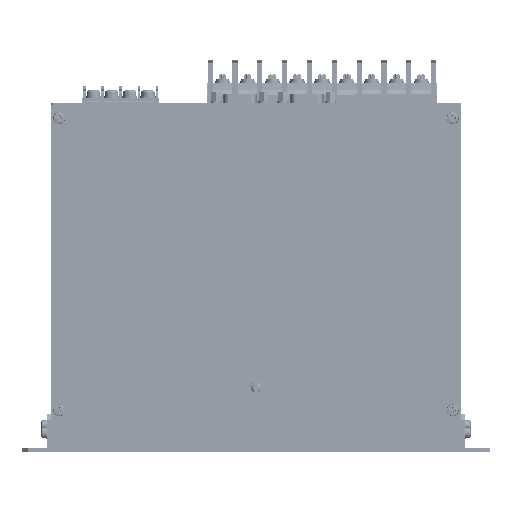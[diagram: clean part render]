
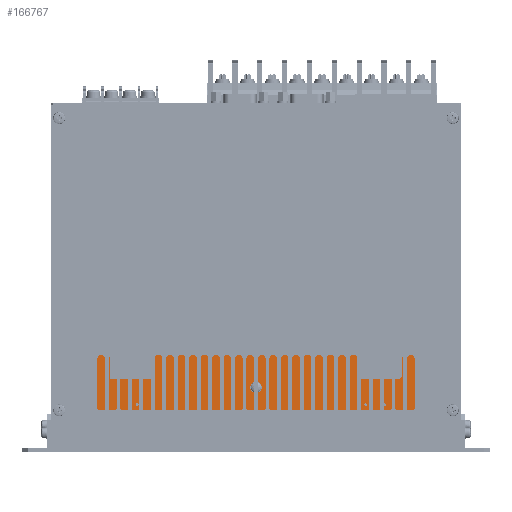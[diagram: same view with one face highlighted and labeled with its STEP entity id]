
A CAD part, left-side view. The second image highlights one B-rep face of the part: STEP entity #166767.
In plain terms, the highlighted planar face has unit normal (-1, 0, 0).
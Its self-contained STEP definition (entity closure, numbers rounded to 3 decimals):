
#166427=CARTESIAN_POINT('',(17.751,104.215,59.415));
#166428=VERTEX_POINT('',#166427);
#166435=CARTESIAN_POINT('',(17.751,-85.785,59.415));
#166436=VERTEX_POINT('',#166435);
#166437=CARTESIAN_POINT('',(17.751,-85.785,59.415));
#166438=DIRECTION('',(0.,1.,0.));
#166439=VECTOR('',#166438,190.);
#166440=LINE('',#166437,#166439);
#166441=EDGE_CURVE('',#166436,#166428,#166440,.T.);
#166465=CARTESIAN_POINT('',(17.751,104.215,4.415));
#166466=VERTEX_POINT('',#166465);
#166473=CARTESIAN_POINT('',(17.751,104.215,59.415));
#166474=DIRECTION('',(0.,0.,-1.));
#166475=VECTOR('',#166474,55.);
#166476=LINE('',#166473,#166475);
#166477=EDGE_CURVE('',#166428,#166466,#166476,.T.);
#166496=CARTESIAN_POINT('',(17.751,-85.785,4.415));
#166497=VERTEX_POINT('',#166496);
#166504=CARTESIAN_POINT('',(17.751,104.215,4.415));
#166505=DIRECTION('',(0.,-1.,0.));
#166506=VECTOR('',#166505,190.);
#166507=LINE('',#166504,#166506);
#166508=EDGE_CURVE('',#166466,#166497,#166507,.T.);
#166521=CARTESIAN_POINT('',(17.751,-80.285,47.665));
#166522=VERTEX_POINT('',#166521);
#166546=CARTESIAN_POINT('',(17.751,-80.285,51.165));
#166547=VERTEX_POINT('',#166546);
#166548=CARTESIAN_POINT('',(17.751,-80.285,49.415));
#166549=DIRECTION('',(-1.,0.,0.));
#166550=DIRECTION('',(0.,0.,1.));
#166551=AXIS2_PLACEMENT_3D('',#166548,#166549,#166550);
#166552=CIRCLE('',#166551,1.75);
#166553=EDGE_CURVE('',#166522,#166547,#166552,.T.);
#166555=CARTESIAN_POINT('',(17.751,-80.285,49.415));
#166556=DIRECTION('',(-1.,0.,0.));
#166557=DIRECTION('',(0.,0.,1.));
#166558=AXIS2_PLACEMENT_3D('',#166555,#166556,#166557);
#166559=CIRCLE('',#166558,1.75);
#166560=EDGE_CURVE('',#166547,#166522,#166559,.T.);
#166572=CARTESIAN_POINT('',(17.751,-80.285,7.665));
#166573=VERTEX_POINT('',#166572);
#166597=CARTESIAN_POINT('',(17.751,-80.285,11.165));
#166598=VERTEX_POINT('',#166597);
#166599=CARTESIAN_POINT('',(17.751,-80.285,9.415));
#166600=DIRECTION('',(-1.,0.,0.));
#166601=DIRECTION('',(0.,0.,1.));
#166602=AXIS2_PLACEMENT_3D('',#166599,#166600,#166601);
#166603=CIRCLE('',#166602,1.75);
#166604=EDGE_CURVE('',#166573,#166598,#166603,.T.);
#166606=CARTESIAN_POINT('',(17.751,-80.285,9.415));
#166607=DIRECTION('',(-1.,0.,0.));
#166608=DIRECTION('',(0.,0.,1.));
#166609=AXIS2_PLACEMENT_3D('',#166606,#166607,#166608);
#166610=CIRCLE('',#166609,1.75);
#166611=EDGE_CURVE('',#166598,#166573,#166610,.T.);
#166623=CARTESIAN_POINT('',(17.751,98.715,40.665));
#166624=VERTEX_POINT('',#166623);
#166648=CARTESIAN_POINT('',(17.751,98.715,44.165));
#166649=VERTEX_POINT('',#166648);
#166650=CARTESIAN_POINT('',(17.751,98.715,42.415));
#166651=DIRECTION('',(-1.,0.,0.));
#166652=DIRECTION('',(0.,0.,1.));
#166653=AXIS2_PLACEMENT_3D('',#166650,#166651,#166652);
#166654=CIRCLE('',#166653,1.75);
#166655=EDGE_CURVE('',#166624,#166649,#166654,.T.);
#166657=CARTESIAN_POINT('',(17.751,98.715,42.415));
#166658=DIRECTION('',(-1.,0.,0.));
#166659=DIRECTION('',(0.,0.,1.));
#166660=AXIS2_PLACEMENT_3D('',#166657,#166658,#166659);
#166661=CIRCLE('',#166660,1.75);
#166662=EDGE_CURVE('',#166649,#166624,#166661,.T.);
#166674=CARTESIAN_POINT('',(17.751,98.715,7.665));
#166675=VERTEX_POINT('',#166674);
#166699=CARTESIAN_POINT('',(17.751,98.715,11.165));
#166700=VERTEX_POINT('',#166699);
#166701=CARTESIAN_POINT('',(17.751,98.715,9.415));
#166702=DIRECTION('',(-1.,0.,0.));
#166703=DIRECTION('',(0.,0.,1.));
#166704=AXIS2_PLACEMENT_3D('',#166701,#166702,#166703);
#166705=CIRCLE('',#166704,1.75);
#166706=EDGE_CURVE('',#166675,#166700,#166705,.T.);
#166708=CARTESIAN_POINT('',(17.751,98.715,9.415));
#166709=DIRECTION('',(-1.,0.,0.));
#166710=DIRECTION('',(0.,0.,1.));
#166711=AXIS2_PLACEMENT_3D('',#166708,#166709,#166710);
#166712=CIRCLE('',#166711,1.75);
#166713=EDGE_CURVE('',#166700,#166675,#166712,.T.);
#166730=CARTESIAN_POINT('',(17.751,-85.785,4.415));
#166731=DIRECTION('',(0.,0.,1.));
#166732=VECTOR('',#166731,55.);
#166733=LINE('',#166730,#166732);
#166734=EDGE_CURVE('',#166497,#166436,#166733,.T.);
#166740=CARTESIAN_POINT('',(17.751,12.477,107.699));
#166741=DIRECTION('',(-1.,0.,0.));
#166742=DIRECTION('',(0.,0.,1.));
#166743=AXIS2_PLACEMENT_3D('',#166740,#166741,#166742);
#166744=PLANE('',#166743);
#166745=ORIENTED_EDGE('',*,*,#166706,.F.);
#166746=ORIENTED_EDGE('',*,*,#166713,.F.);
#166747=EDGE_LOOP('',(#166745,#166746));
#166748=FACE_BOUND('',#166747,.T.);
#166749=ORIENTED_EDGE('',*,*,#166655,.F.);
#166750=ORIENTED_EDGE('',*,*,#166662,.F.);
#166751=EDGE_LOOP('',(#166749,#166750));
#166752=FACE_BOUND('',#166751,.T.);
#166753=ORIENTED_EDGE('',*,*,#166604,.F.);
#166754=ORIENTED_EDGE('',*,*,#166611,.F.);
#166755=EDGE_LOOP('',(#166753,#166754));
#166756=FACE_BOUND('',#166755,.T.);
#166757=ORIENTED_EDGE('',*,*,#166553,.F.);
#166758=ORIENTED_EDGE('',*,*,#166560,.F.);
#166759=EDGE_LOOP('',(#166757,#166758));
#166760=FACE_BOUND('',#166759,.T.);
#166761=ORIENTED_EDGE('',*,*,#166441,.T.);
#166762=ORIENTED_EDGE('',*,*,#166477,.T.);
#166763=ORIENTED_EDGE('',*,*,#166508,.T.);
#166764=ORIENTED_EDGE('',*,*,#166734,.T.);
#166765=EDGE_LOOP('',(#166761,#166762,#166763,#166764));
#166766=FACE_BOUND('',#166765,.T.);
#166767=ADVANCED_FACE('',(#166748,#166752,#166756,#166760,#166766),#166744,.T.);
